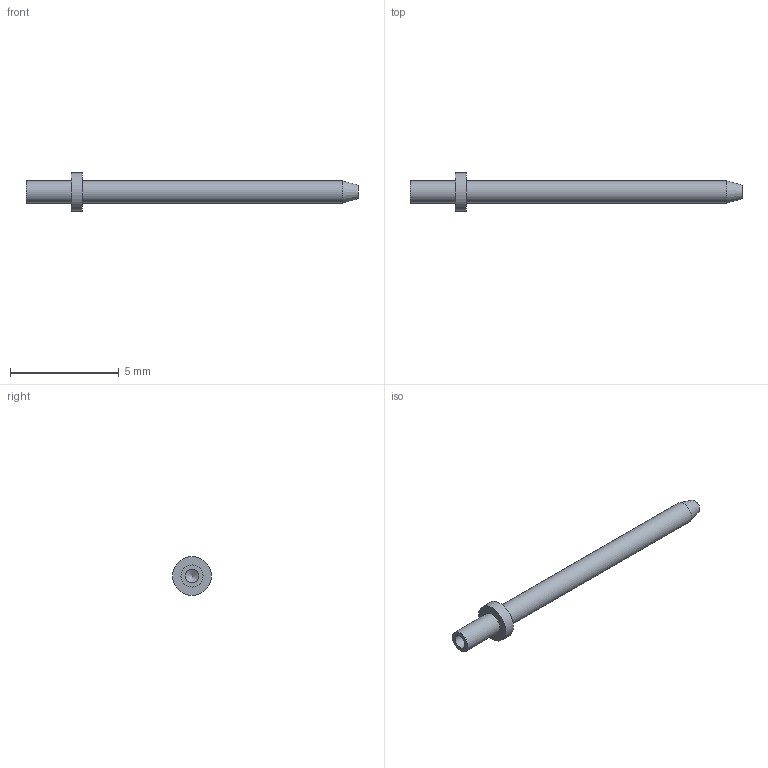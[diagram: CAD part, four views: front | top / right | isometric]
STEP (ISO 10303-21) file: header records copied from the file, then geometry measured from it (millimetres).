
FILE_DESCRIPTION(/* description */ (''),/* implementation_level */ '2;1');
FILE_NAME(/* name */ 'Z:\STEP folder\460294602.ipt.stp',/* time_stamp */ '2016-12-21T13:04:34+00:00',/* author */ ('Paul Karlsons'),/* organization */ (''),/* preprocessor_version */ 'ST-DEVELOPER v15.2',/* originating_system */ 'Autodesk Inventor 2014',/* authorisation */ '');
FILE_SCHEMA (('AUTOMOTIVE_DESIGN { 1 0 10303 214 3 1 1 }'));
Length unit declared in the file: millimetre
Products named in the file (1): 460294602
Bounding box: 15.29 x 1.78 x 1.78 mm (x, y, z)
Volume: 12.7 mm3; surface area: 56.2 mm2
Topology: 1 solids, 1 shells, 10 faces, 16 edges, 10 vertices
Faces by surface type: cylinder 4, plane 4, cone 2
Full cylindrical faces by diameter (mm): 0.635 x1, 1.016 x2, 1.778 x1
Entity records: 215 total; most frequent: DIRECTION 40, CARTESIAN_POINT 29, AXIS2_PLACEMENT_3D 20, EDGE_LOOP 18, ORIENTED_EDGE 18, FACE_BOUND 10, ADVANCED_FACE 10, CIRCLE 9
